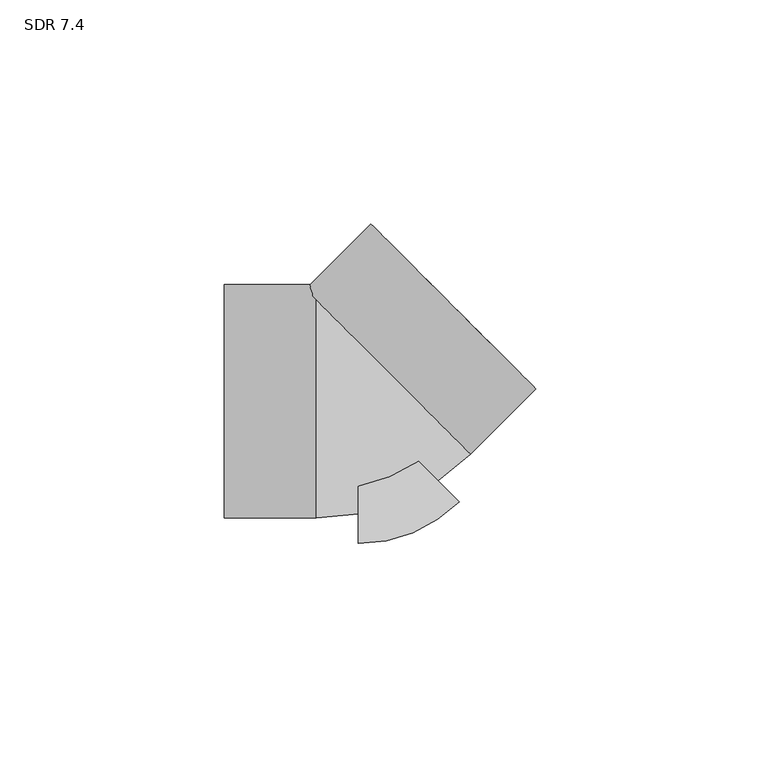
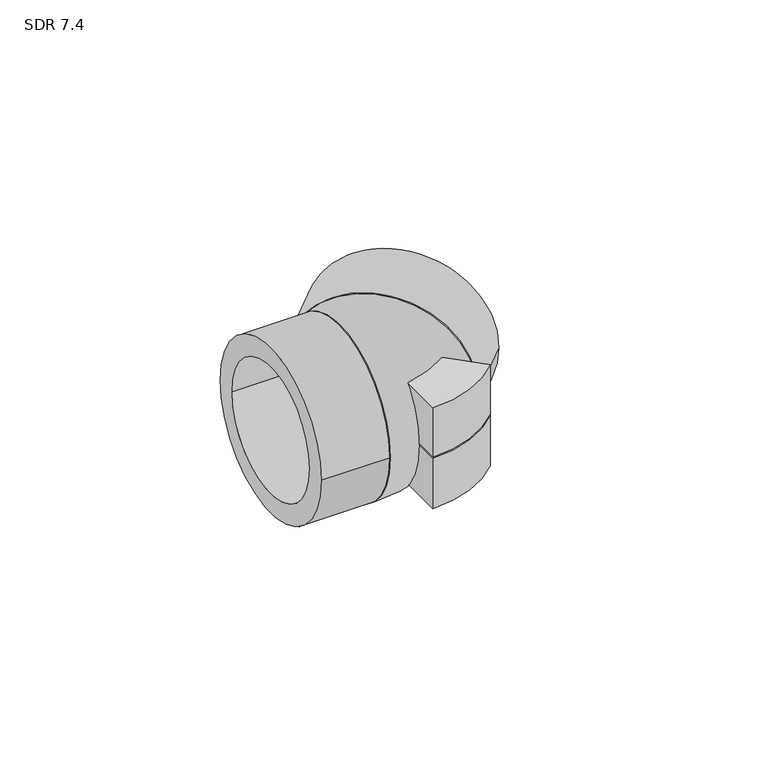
"""IFC4 building model written with IfcOpenShell, lengths in millimetres: pipe fitting geometry, Aquatherm - Elbow Socket : SDR 7.4."""

from ifc_helpers import new_model, si_unit, point, frame, origin, origin_with_axes, origin_2d, place, context, project, spatial, polyline, circle_curve, ellipse_curve, trimmed, segment, composite_curve, outline, extrude, source, transform, mapped, element, save
from ifc_brep_helpers import plane_surface, revolved_surface, advanced_brep


def sdr_7_4_b21440bd(model_context):
    return source(origin(), model_context, "Body", "SolidModel", [
        extrude(outline(composite_curve([segment(polyline([(0.0, -31.75), (0.0, 0.0), (22.4506403, -22.4506403)]), True, "CONTINUOUS"), segment(trimmed(circle_curve(origin_2d(), 31.75), [point((22.4506403, -22.4506403))], [point((0.0, -31.75))], False, "CARTESIAN"), True, "CONTINUOUS")], self_intersect=False)), frame((0.0, 0.0, -15.875), z_axis=(0.0, 0.0, 1.0), x_axis=(1.0, 0.0, 0.0)), (0.0, 0.0, 1.0), 15.875),
        extrude(outline(composite_curve([segment(trimmed(circle_curve(origin_2d(), 31.75), [point((22.4506403, -22.4506403))], [point((0.0, -31.75))], False, "CARTESIAN"), True, "CONTINUOUS"), segment(polyline([(0.0, -31.75), (0.0, 0.0), (22.4506403, -22.4506403)]), True, "CONTINUOUS")], self_intersect=False)), origin_with_axes(), (0.0, 0.0, 1.0), 15.875),
        extrude(outline(composite_curve([segment(trimmed(circle_curve(origin_2d(), 26.035), [point((0.0, 26.035))], [point((0.0, -26.035))], False, "CARTESIAN"), True, "CONTINUOUS"), segment(trimmed(circle_curve(origin_2d(), 26.035), [point((0.0, -26.035))], [point((0.0, 26.035))], False, "CARTESIAN"), True, "CONTINUOUS")], self_intersect=False), holes=[composite_curve([segment(trimmed(circle_curve(origin_2d(), 19.939), [point((0.0, 19.939))], [point((0.0, -19.939))], True, "CARTESIAN"), True, "CONTINUOUS"), segment(trimmed(circle_curve(origin_2d(), 19.939), [point((0.0, -19.939))], [point((0.0, 19.939))], True, "CARTESIAN"), True, "CONTINUOUS")], self_intersect=False)]), frame((6.6453895, 6.6453895, 0.0), z_axis=(0.7071067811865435, 0.7071067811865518, 0.0), x_axis=(0.0, 0.0, 1.0)), (0.0, 0.0, 1.0), 20.574),
        advanced_brep(
        [(-9.398, 22.6887791, -12.7687325), (-9.398, 22.6887791, 12.7687325), (-9.398, -14.4003889, 0.0), (-9.398, 14.4003889, 0.0), (16.8280022, -3.5372231, 0.0), (-3.5372231, 16.8280022, 0.0)],
        [
            (0, 1, circle_curve(frame((-9.398, 0.0, 0.0), z_axis=(-1.0, 0.0, 0.0), x_axis=(0.0, 1.0, 0.0)), 26.035)),
            (1, 0),
            (2, 3, circle_curve(frame((-9.398, 0.0, 0.0), z_axis=(1.0, 0.0, 0.0), x_axis=(0.0, 1.0, 0.0)), 14.4003889)),
            (3, 2, circle_curve(frame((-9.398, 0.0, 0.0), z_axis=(1.0, 0.0, 0.0), x_axis=(0.0, 1.0, 0.0)), 14.4003889)),
            (1, 0, circle_curve(frame((6.6453895, 6.6453895, 0.0), z_axis=(0.7071067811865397, 0.7071067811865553, 0.0), x_axis=(-0.7071067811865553, 0.7071067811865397, 0.0)), 26.035)),
            (4, 5, circle_curve(frame((6.6453895, 6.6453895, 0.0), z_axis=(-0.7071067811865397, -0.7071067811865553, 0.0), x_axis=(-0.7071067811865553, 0.7071067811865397, 0.0)), 14.4003889)),
            (5, 4, circle_curve(frame((6.6453895, 6.6453895, 0.0), z_axis=(-0.7071067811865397, -0.7071067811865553, 0.0), x_axis=(-0.7071067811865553, 0.7071067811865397, 0.0)), 14.4003889)),
            (5, 3, circle_curve(frame((-9.398, 22.6887791, 0.0), z_axis=(0.0, 0.0, -1.0), x_axis=(0.0, -1.0, 0.0)), 8.2883902)),
            (2, 4, circle_curve(frame((-9.398, 22.6887791, 0.0), z_axis=(0.0, 0.0, 1.0), x_axis=(0.0, -1.0, 0.0)), 37.0891679)),
        ],
        [
            plane_surface(frame((-9.398, 22.6887791, 69.9187325), z_axis=(-1.0, 0.0, 0.0), x_axis=(0.0, -1.0, 0.0))),
            plane_surface(frame((-9.398, 22.6887791, 69.9187325), z_axis=(0.7071067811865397, 0.7071067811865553, 0.0), x_axis=(0.7071067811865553, -0.7071067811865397, 0.0))),
            revolved_surface(trimmed(ellipse_curve(frame((-9.398, 0.0, 0.0), z_axis=(1.0, 0.0, 0.0), x_axis=(0.0, 1.0, 0.0)), 26.035, 26.035), [point((-9.398, 22.6887791, 12.7687325))], [point((-9.398, 22.6887791, -12.7687325))], True, "CARTESIAN"), (-9.398, 22.6887791, 69.9187325), (0.0, 0.0, -1.0)),
            revolved_surface(trimmed(ellipse_curve(frame((-9.398, 0.0, 0.0), z_axis=(-1.0, 0.0, 0.0), x_axis=(0.0, 1.0, 0.0)), 14.4003889, 14.4003889), [point((-9.398, 14.4003889, 0.0))], [point((-9.398, -14.4003889, 0.0))], True, "CARTESIAN"), (-9.398, 22.6887791, 69.9187325), (0.0, 0.0, -1.0)),
            revolved_surface(trimmed(ellipse_curve(frame((-9.398, 0.0, 0.0), z_axis=(-1.0, 0.0, 0.0), x_axis=(0.0, 1.0, 0.0)), 14.4003889, 14.4003889), [point((-9.398, -14.4003889, 0.0))], [point((-9.398, 14.4003889, 0.0))], True, "CARTESIAN"), (-9.398, 22.6887791, 69.9187325), (0.0, 0.0, -1.0)),
        ],
        [
            (0, [[1, 2], [3, 4]]),
            (1, [[5, -2], [6, 7]]),
            (2, [[-1, -5]]),
            (3, [[8, -3, 9, -7]]),
            (4, [[-9, -4, -8, -6]]),
        ],
    ),
        extrude(outline(composite_curve([segment(trimmed(circle_curve(origin_2d(), 26.035), [point((26.035, 0.0))], [point((-26.035, 0.0))], False, "CARTESIAN"), True, "CONTINUOUS"), segment(trimmed(circle_curve(origin_2d(), 26.035), [point((-26.035, 0.0))], [point((26.035, 0.0))], False, "CARTESIAN"), True, "CONTINUOUS")], self_intersect=False), holes=[composite_curve([segment(trimmed(circle_curve(origin_2d(), 19.939), [point((19.939, 0.0))], [point((-19.939, 0.0))], True, "CARTESIAN"), True, "CONTINUOUS"), segment(trimmed(circle_curve(origin_2d(), 19.939), [point((-19.939, 0.0))], [point((19.939, 0.0))], True, "CARTESIAN"), True, "CONTINUOUS")], self_intersect=False)]), frame((-29.972, 0.0, 0.0), z_axis=(1.0, 0.0, 0.0), x_axis=(0.0, 1.0, 0.0)), (0.0, 0.0, 1.0), 20.574),
    ])


if __name__ == "__main__":
    model = new_model("IFC4")
    model_context = context("Model", 3, world=origin())
    ifc_project = project(units=[si_unit("LENGTHUNIT", "METRE", prefix="MILLI")], contexts=[model_context])
    site = spatial("IfcSite", under=ifc_project)
    building = spatial("IfcBuilding", under=site)
    placement = place(None, origin())
    sdr_7_4_shape = sdr_7_4_b21440bd(model_context)
    element("IfcPipeFitting", 1, ObjectType="Aquatherm - Elbow Socket : SDR 7.4", at=placement, inside=building, context=model_context, shape_type="MappedRepresentation", body=[
        mapped(sdr_7_4_shape, transform((0.0, 0.0, 0.0), x_axis=(1.0, 0.0, 0.0), y_axis=(0.0, 1.0, 0.0), z_axis=(0.0, 0.0, 1.0))),
    ])
    save(model, "model.ifc")
